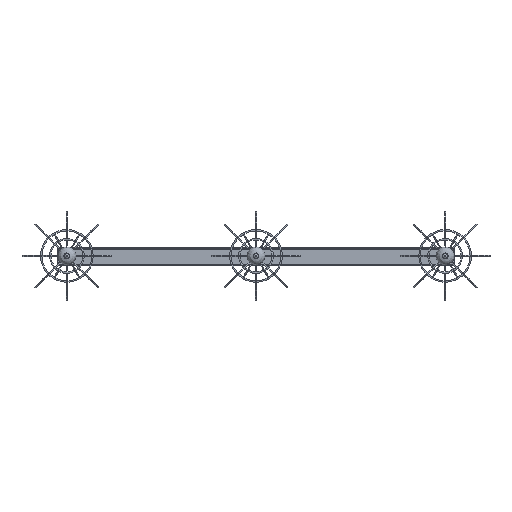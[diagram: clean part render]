
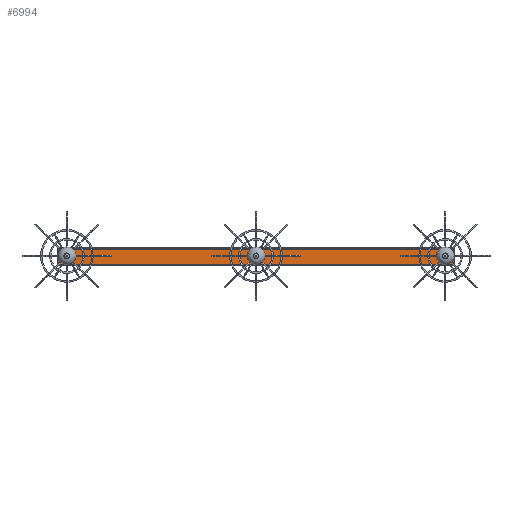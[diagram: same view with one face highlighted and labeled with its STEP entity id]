
A CAD part, top view. The second image highlights one B-rep face of the part: STEP entity #6994.
In plain terms, the highlighted planar face has unit normal (0, 0, 1) as drawn and (0, -1, 0) by its records, which use the part's own axes.
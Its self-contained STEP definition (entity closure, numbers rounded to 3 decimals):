
#553=PLANE('',#7812);
#884=LINE('',#12729,#1210);
#886=LINE('',#12736,#1212);
#888=LINE('',#12742,#1214);
#890=LINE('',#12746,#1216);
#1210=VECTOR('',#9336,10.);
#1212=VECTOR('',#9344,10.);
#1214=VECTOR('',#9350,10.);
#1216=VECTOR('',#9356,10.);
#1622=FACE_OUTER_BOUND('',#2176,.T.);
#2176=EDGE_LOOP('',(#5413,#5414,#5415,#5416));
#3377=VERTEX_POINT('',#12727);
#3378=VERTEX_POINT('',#12728);
#3380=VERTEX_POINT('',#12735);
#3382=VERTEX_POINT('',#12741);
#4117=EDGE_CURVE('',#3377,#3378,#884,.T.);
#4121=EDGE_CURVE('',#3378,#3380,#886,.T.);
#4124=EDGE_CURVE('',#3380,#3382,#888,.T.);
#4127=EDGE_CURVE('',#3382,#3377,#890,.T.);
#5413=ORIENTED_EDGE('',*,*,#4117,.F.);
#5414=ORIENTED_EDGE('',*,*,#4127,.F.);
#5415=ORIENTED_EDGE('',*,*,#4124,.F.);
#5416=ORIENTED_EDGE('',*,*,#4121,.F.);
#6994=ADVANCED_FACE('',(#1622),#553,.T.);
#7812=AXIS2_PLACEMENT_3D('',#12749,#9360,#9361);
#9336=DIRECTION('',(1.,0.,0.));
#9344=DIRECTION('',(0.,0.,-1.));
#9350=DIRECTION('',(-1.,0.,0.));
#9356=DIRECTION('',(0.,0.,1.));
#9360=DIRECTION('center_axis',(0.,-1.,0.));
#9361=DIRECTION('ref_axis',(0.,0.,-1.));
#12727=CARTESIAN_POINT('',(-535.5,-20.,23.));
#12728=CARTESIAN_POINT('',(535.5,-20.,23.));
#12729=CARTESIAN_POINT('',(268.75,-20.,23.));
#12735=CARTESIAN_POINT('',(535.5,-20.,-23.));
#12736=CARTESIAN_POINT('',(535.5,-20.,-12.5));
#12741=CARTESIAN_POINT('',(-535.5,-20.,-23.));
#12742=CARTESIAN_POINT('',(-268.75,-20.,-23.));
#12746=CARTESIAN_POINT('',(-535.5,-20.,12.5));
#12749=CARTESIAN_POINT('Origin',(0.,-20.,0.));
